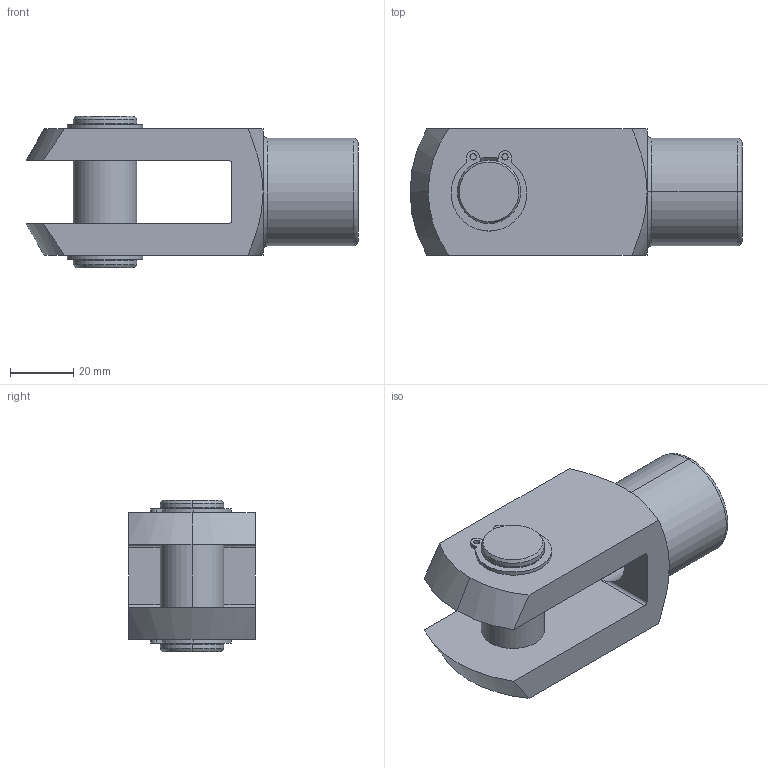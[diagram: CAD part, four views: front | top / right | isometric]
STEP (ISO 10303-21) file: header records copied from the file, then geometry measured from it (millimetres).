
FILE_DESCRIPTION (( 'STEP AP203' ), '1' );
FILE_NAME ('65616.W0204.step', '2014-01-18T10:33:52', ( 'User' ), ( '' ), 'SwSTEP 2.0', 'SolidWorks 2009', '' );
FILE_SCHEMA (( 'CONFIG_CONTROL_DESIGN' ));
Length unit declared in the file: millimetre
Products named in the file (4): 65616.W0204; Part1_65636.W0204; Part2_65666.W0020; Part3_65678.W0020
Assembly tree (4 placements, depth 2):
  65616.W0204
    Part3_65678.W0020  x2
    Part1_65636.W0204
    Part2_65666.W0020
Bounding box: 105 x 40 x 48 mm (x, y, z)
Volume: 87272.4 mm3; surface area: 26072.9 mm2
Topology: 4 solids, 4 shells, 95 faces, 227 edges, 144 vertices
Faces by surface type: cylinder 46, plane 28, cone 17, torus 4
Entity records: 2803 total; most frequent: CARTESIAN_POINT 535, DIRECTION 423, ORIENTED_EDGE 358, EDGE_CURVE 179, AXIS2_PLACEMENT_3D 176, VERTEX_POINT 112, CIRCLE 92, EDGE_LOOP 91
